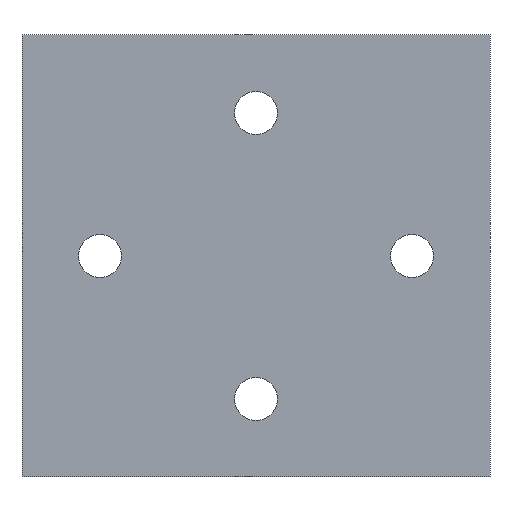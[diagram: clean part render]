
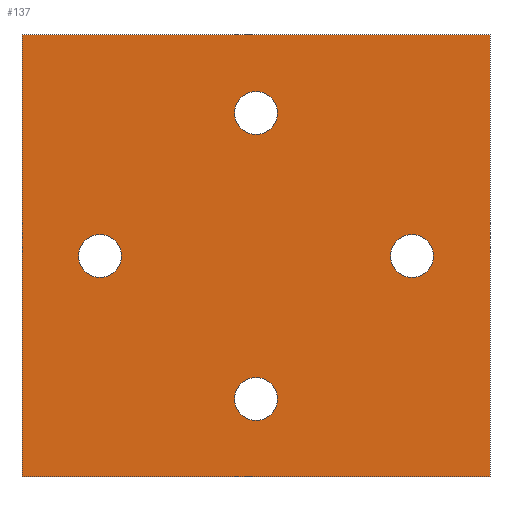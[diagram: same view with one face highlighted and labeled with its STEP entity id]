
A CAD part, front view. The second image highlights one B-rep face of the part: STEP entity #137.
In plain terms, the highlighted planar face has unit normal (0, -1, 0).
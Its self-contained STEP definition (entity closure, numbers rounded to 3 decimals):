
#21 = EDGE_CURVE('',#22,#24,#26,.T.);
#22 = VERTEX_POINT('',#23);
#23 = CARTESIAN_POINT('',(22.,-24.,-17.));
#24 = VERTEX_POINT('',#25);
#25 = CARTESIAN_POINT('',(22.,-24.,17.));
#26 = SURFACE_CURVE('',#27,(#31,#43),.PCURVE_S1.);
#27 = LINE('',#28,#29);
#28 = CARTESIAN_POINT('',(22.,-24.,-17.));
#29 = VECTOR('',#30,1.);
#30 = DIRECTION('',(0.,0.,1.));
#31 = PCURVE('',#32,#37);
#32 = PLANE('',#33);
#33 = AXIS2_PLACEMENT_3D('',#34,#35,#36);
#34 = CARTESIAN_POINT('',(22.,-24.,-17.));
#35 = DIRECTION('',(1.,0.,0.));
#36 = DIRECTION('',(0.,0.,1.));
#37 = DEFINITIONAL_REPRESENTATION('',(#38),#42);
#38 = LINE('',#39,#40);
#39 = CARTESIAN_POINT('',(0.,0.));
#40 = VECTOR('',#41,1.);
#41 = DIRECTION('',(1.,0.));
#42 = ( GEOMETRIC_REPRESENTATION_CONTEXT(2)
PARAMETRIC_REPRESENTATION_CONTEXT() REPRESENTATION_CONTEXT('2D SPACE',''
  ) );
#43 = PCURVE('',#44,#49);
#44 = PLANE('',#45);
#45 = AXIS2_PLACEMENT_3D('',#46,#47,#48);
#46 = CARTESIAN_POINT('',(22.,-24.,-17.));
#47 = DIRECTION('',(0.,1.,0.));
#48 = DIRECTION('',(0.,0.,1.));
#49 = DEFINITIONAL_REPRESENTATION('',(#50),#54);
#50 = LINE('',#51,#52);
#51 = CARTESIAN_POINT('',(0.,0.));
#52 = VECTOR('',#53,1.);
#53 = DIRECTION('',(1.,0.));
#54 = ( GEOMETRIC_REPRESENTATION_CONTEXT(2)
PARAMETRIC_REPRESENTATION_CONTEXT() REPRESENTATION_CONTEXT('2D SPACE',''
  ) );
#72 = PLANE('',#73);
#73 = AXIS2_PLACEMENT_3D('',#74,#75,#76);
#74 = CARTESIAN_POINT('',(22.,-24.,-17.));
#75 = DIRECTION('',(0.,0.,1.));
#76 = DIRECTION('',(1.,0.,0.));
#126 = PLANE('',#127);
#127 = AXIS2_PLACEMENT_3D('',#128,#129,#130);
#128 = CARTESIAN_POINT('',(22.,-24.,17.));
#129 = DIRECTION('',(0.,0.,1.));
#130 = DIRECTION('',(1.,0.,0.));
#137 = ADVANCED_FACE('',(#138,#213,#244,#275,#306),#44,.F.);
#138 = FACE_BOUND('',#139,.F.);
#139 = EDGE_LOOP('',(#140,#163,#164,#187));
#140 = ORIENTED_EDGE('',*,*,#141,.F.);
#141 = EDGE_CURVE('',#22,#142,#144,.T.);
#142 = VERTEX_POINT('',#143);
#143 = CARTESIAN_POINT('',(58.,-24.,-17.));
#144 = SURFACE_CURVE('',#145,(#149,#156),.PCURVE_S1.);
#145 = LINE('',#146,#147);
#146 = CARTESIAN_POINT('',(22.,-24.,-17.));
#147 = VECTOR('',#148,1.);
#148 = DIRECTION('',(1.,0.,0.));
#149 = PCURVE('',#44,#150);
#150 = DEFINITIONAL_REPRESENTATION('',(#151),#155);
#151 = LINE('',#152,#153);
#152 = CARTESIAN_POINT('',(0.,0.));
#153 = VECTOR('',#154,1.);
#154 = DIRECTION('',(0.,1.));
#155 = ( GEOMETRIC_REPRESENTATION_CONTEXT(2)
PARAMETRIC_REPRESENTATION_CONTEXT() REPRESENTATION_CONTEXT('2D SPACE',''
  ) );
#156 = PCURVE('',#72,#157);
#157 = DEFINITIONAL_REPRESENTATION('',(#158),#162);
#158 = LINE('',#159,#160);
#159 = CARTESIAN_POINT('',(0.,0.));
#160 = VECTOR('',#161,1.);
#161 = DIRECTION('',(1.,0.));
#162 = ( GEOMETRIC_REPRESENTATION_CONTEXT(2)
PARAMETRIC_REPRESENTATION_CONTEXT() REPRESENTATION_CONTEXT('2D SPACE',''
  ) );
#163 = ORIENTED_EDGE('',*,*,#21,.T.);
#164 = ORIENTED_EDGE('',*,*,#165,.T.);
#165 = EDGE_CURVE('',#24,#166,#168,.T.);
#166 = VERTEX_POINT('',#167);
#167 = CARTESIAN_POINT('',(58.,-24.,17.));
#168 = SURFACE_CURVE('',#169,(#173,#180),.PCURVE_S1.);
#169 = LINE('',#170,#171);
#170 = CARTESIAN_POINT('',(22.,-24.,17.));
#171 = VECTOR('',#172,1.);
#172 = DIRECTION('',(1.,0.,0.));
#173 = PCURVE('',#44,#174);
#174 = DEFINITIONAL_REPRESENTATION('',(#175),#179);
#175 = LINE('',#176,#177);
#176 = CARTESIAN_POINT('',(34.,0.));
#177 = VECTOR('',#178,1.);
#178 = DIRECTION('',(0.,1.));
#179 = ( GEOMETRIC_REPRESENTATION_CONTEXT(2)
PARAMETRIC_REPRESENTATION_CONTEXT() REPRESENTATION_CONTEXT('2D SPACE',''
  ) );
#180 = PCURVE('',#126,#181);
#181 = DEFINITIONAL_REPRESENTATION('',(#182),#186);
#182 = LINE('',#183,#184);
#183 = CARTESIAN_POINT('',(0.,0.));
#184 = VECTOR('',#185,1.);
#185 = DIRECTION('',(1.,0.));
#186 = ( GEOMETRIC_REPRESENTATION_CONTEXT(2)
PARAMETRIC_REPRESENTATION_CONTEXT() REPRESENTATION_CONTEXT('2D SPACE',''
  ) );
#187 = ORIENTED_EDGE('',*,*,#188,.F.);
#188 = EDGE_CURVE('',#142,#166,#189,.T.);
#189 = SURFACE_CURVE('',#190,(#194,#201),.PCURVE_S1.);
#190 = LINE('',#191,#192);
#191 = CARTESIAN_POINT('',(58.,-24.,-17.));
#192 = VECTOR('',#193,1.);
#193 = DIRECTION('',(0.,0.,1.));
#194 = PCURVE('',#44,#195);
#195 = DEFINITIONAL_REPRESENTATION('',(#196),#200);
#196 = LINE('',#197,#198);
#197 = CARTESIAN_POINT('',(0.,36.));
#198 = VECTOR('',#199,1.);
#199 = DIRECTION('',(1.,0.));
#200 = ( GEOMETRIC_REPRESENTATION_CONTEXT(2)
PARAMETRIC_REPRESENTATION_CONTEXT() REPRESENTATION_CONTEXT('2D SPACE',''
  ) );
#201 = PCURVE('',#202,#207);
#202 = PLANE('',#203);
#203 = AXIS2_PLACEMENT_3D('',#204,#205,#206);
#204 = CARTESIAN_POINT('',(58.,-24.,-17.));
#205 = DIRECTION('',(1.,0.,0.));
#206 = DIRECTION('',(0.,0.,1.));
#207 = DEFINITIONAL_REPRESENTATION('',(#208),#212);
#208 = LINE('',#209,#210);
#209 = CARTESIAN_POINT('',(0.,0.));
#210 = VECTOR('',#211,1.);
#211 = DIRECTION('',(1.,0.));
#212 = ( GEOMETRIC_REPRESENTATION_CONTEXT(2)
PARAMETRIC_REPRESENTATION_CONTEXT() REPRESENTATION_CONTEXT('2D SPACE',''
  ) );
#213 = FACE_BOUND('',#214,.F.);
#214 = EDGE_LOOP('',(#215));
#215 = ORIENTED_EDGE('',*,*,#216,.F.);
#216 = EDGE_CURVE('',#217,#217,#219,.T.);
#217 = VERTEX_POINT('',#218);
#218 = CARTESIAN_POINT('',(28.,-24.,1.65));
#219 = SURFACE_CURVE('',#220,(#225,#232),.PCURVE_S1.);
#220 = CIRCLE('',#221,1.65);
#221 = AXIS2_PLACEMENT_3D('',#222,#223,#224);
#222 = CARTESIAN_POINT('',(28.,-24.,0.));
#223 = DIRECTION('',(0.,1.,0.));
#224 = DIRECTION('',(0.,-0.,1.));
#225 = PCURVE('',#44,#226);
#226 = DEFINITIONAL_REPRESENTATION('',(#227),#231);
#227 = CIRCLE('',#228,1.65);
#228 = AXIS2_PLACEMENT_2D('',#229,#230);
#229 = CARTESIAN_POINT('',(17.,6.));
#230 = DIRECTION('',(1.,0.));
#231 = ( GEOMETRIC_REPRESENTATION_CONTEXT(2)
PARAMETRIC_REPRESENTATION_CONTEXT() REPRESENTATION_CONTEXT('2D SPACE',''
  ) );
#232 = PCURVE('',#233,#238);
#233 = CYLINDRICAL_SURFACE('',#234,1.65);
#234 = AXIS2_PLACEMENT_3D('',#235,#236,#237);
#235 = CARTESIAN_POINT('',(28.,-25.,0.));
#236 = DIRECTION('',(0.,1.,0.));
#237 = DIRECTION('',(0.,-0.,1.));
#238 = DEFINITIONAL_REPRESENTATION('',(#239),#243);
#239 = LINE('',#240,#241);
#240 = CARTESIAN_POINT('',(0.,1.));
#241 = VECTOR('',#242,1.);
#242 = DIRECTION('',(1.,0.));
#243 = ( GEOMETRIC_REPRESENTATION_CONTEXT(2)
PARAMETRIC_REPRESENTATION_CONTEXT() REPRESENTATION_CONTEXT('2D SPACE',''
  ) );
#244 = FACE_BOUND('',#245,.F.);
#245 = EDGE_LOOP('',(#246));
#246 = ORIENTED_EDGE('',*,*,#247,.F.);
#247 = EDGE_CURVE('',#248,#248,#250,.T.);
#248 = VERTEX_POINT('',#249);
#249 = CARTESIAN_POINT('',(40.,-24.,-9.35));
#250 = SURFACE_CURVE('',#251,(#256,#263),.PCURVE_S1.);
#251 = CIRCLE('',#252,1.65);
#252 = AXIS2_PLACEMENT_3D('',#253,#254,#255);
#253 = CARTESIAN_POINT('',(40.,-24.,-11.));
#254 = DIRECTION('',(0.,1.,0.));
#255 = DIRECTION('',(0.,-0.,1.));
#256 = PCURVE('',#44,#257);
#257 = DEFINITIONAL_REPRESENTATION('',(#258),#262);
#258 = CIRCLE('',#259,1.65);
#259 = AXIS2_PLACEMENT_2D('',#260,#261);
#260 = CARTESIAN_POINT('',(6.,18.));
#261 = DIRECTION('',(1.,0.));
#262 = ( GEOMETRIC_REPRESENTATION_CONTEXT(2)
PARAMETRIC_REPRESENTATION_CONTEXT() REPRESENTATION_CONTEXT('2D SPACE',''
  ) );
#263 = PCURVE('',#264,#269);
#264 = CYLINDRICAL_SURFACE('',#265,1.65);
#265 = AXIS2_PLACEMENT_3D('',#266,#267,#268);
#266 = CARTESIAN_POINT('',(40.,-25.,-11.));
#267 = DIRECTION('',(0.,1.,0.));
#268 = DIRECTION('',(0.,-0.,1.));
#269 = DEFINITIONAL_REPRESENTATION('',(#270),#274);
#270 = LINE('',#271,#272);
#271 = CARTESIAN_POINT('',(0.,1.));
#272 = VECTOR('',#273,1.);
#273 = DIRECTION('',(1.,0.));
#274 = ( GEOMETRIC_REPRESENTATION_CONTEXT(2)
PARAMETRIC_REPRESENTATION_CONTEXT() REPRESENTATION_CONTEXT('2D SPACE',''
  ) );
#275 = FACE_BOUND('',#276,.F.);
#276 = EDGE_LOOP('',(#277));
#277 = ORIENTED_EDGE('',*,*,#278,.F.);
#278 = EDGE_CURVE('',#279,#279,#281,.T.);
#279 = VERTEX_POINT('',#280);
#280 = CARTESIAN_POINT('',(40.,-24.,12.65));
#281 = SURFACE_CURVE('',#282,(#287,#294),.PCURVE_S1.);
#282 = CIRCLE('',#283,1.65);
#283 = AXIS2_PLACEMENT_3D('',#284,#285,#286);
#284 = CARTESIAN_POINT('',(40.,-24.,11.));
#285 = DIRECTION('',(0.,1.,0.));
#286 = DIRECTION('',(0.,-0.,1.));
#287 = PCURVE('',#44,#288);
#288 = DEFINITIONAL_REPRESENTATION('',(#289),#293);
#289 = CIRCLE('',#290,1.65);
#290 = AXIS2_PLACEMENT_2D('',#291,#292);
#291 = CARTESIAN_POINT('',(28.,18.));
#292 = DIRECTION('',(1.,0.));
#293 = ( GEOMETRIC_REPRESENTATION_CONTEXT(2)
PARAMETRIC_REPRESENTATION_CONTEXT() REPRESENTATION_CONTEXT('2D SPACE',''
  ) );
#294 = PCURVE('',#295,#300);
#295 = CYLINDRICAL_SURFACE('',#296,1.65);
#296 = AXIS2_PLACEMENT_3D('',#297,#298,#299);
#297 = CARTESIAN_POINT('',(40.,-25.,11.));
#298 = DIRECTION('',(0.,1.,0.));
#299 = DIRECTION('',(0.,-0.,1.));
#300 = DEFINITIONAL_REPRESENTATION('',(#301),#305);
#301 = LINE('',#302,#303);
#302 = CARTESIAN_POINT('',(0.,1.));
#303 = VECTOR('',#304,1.);
#304 = DIRECTION('',(1.,0.));
#305 = ( GEOMETRIC_REPRESENTATION_CONTEXT(2)
PARAMETRIC_REPRESENTATION_CONTEXT() REPRESENTATION_CONTEXT('2D SPACE',''
  ) );
#306 = FACE_BOUND('',#307,.F.);
#307 = EDGE_LOOP('',(#308));
#308 = ORIENTED_EDGE('',*,*,#309,.F.);
#309 = EDGE_CURVE('',#310,#310,#312,.T.);
#310 = VERTEX_POINT('',#311);
#311 = CARTESIAN_POINT('',(52.,-24.,1.65));
#312 = SURFACE_CURVE('',#313,(#318,#325),.PCURVE_S1.);
#313 = CIRCLE('',#314,1.65);
#314 = AXIS2_PLACEMENT_3D('',#315,#316,#317);
#315 = CARTESIAN_POINT('',(52.,-24.,0.));
#316 = DIRECTION('',(0.,1.,0.));
#317 = DIRECTION('',(0.,-0.,1.));
#318 = PCURVE('',#44,#319);
#319 = DEFINITIONAL_REPRESENTATION('',(#320),#324);
#320 = CIRCLE('',#321,1.65);
#321 = AXIS2_PLACEMENT_2D('',#322,#323);
#322 = CARTESIAN_POINT('',(17.,30.));
#323 = DIRECTION('',(1.,0.));
#324 = ( GEOMETRIC_REPRESENTATION_CONTEXT(2)
PARAMETRIC_REPRESENTATION_CONTEXT() REPRESENTATION_CONTEXT('2D SPACE',''
  ) );
#325 = PCURVE('',#326,#331);
#326 = CYLINDRICAL_SURFACE('',#327,1.65);
#327 = AXIS2_PLACEMENT_3D('',#328,#329,#330);
#328 = CARTESIAN_POINT('',(52.,-25.,0.));
#329 = DIRECTION('',(0.,1.,0.));
#330 = DIRECTION('',(0.,-0.,1.));
#331 = DEFINITIONAL_REPRESENTATION('',(#332),#336);
#332 = LINE('',#333,#334);
#333 = CARTESIAN_POINT('',(0.,1.));
#334 = VECTOR('',#335,1.);
#335 = DIRECTION('',(1.,0.));
#336 = ( GEOMETRIC_REPRESENTATION_CONTEXT(2)
PARAMETRIC_REPRESENTATION_CONTEXT() REPRESENTATION_CONTEXT('2D SPACE',''
  ) );
